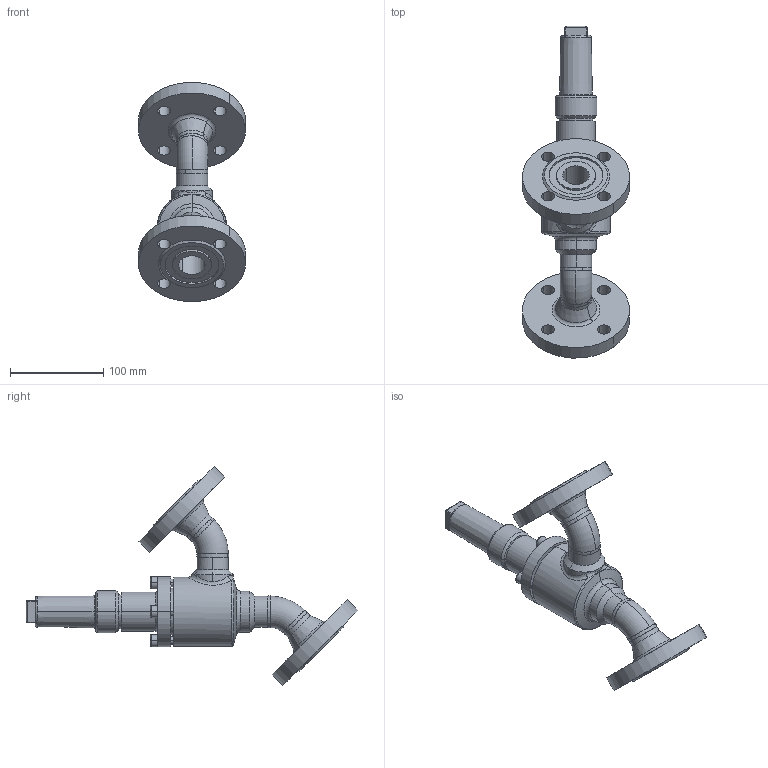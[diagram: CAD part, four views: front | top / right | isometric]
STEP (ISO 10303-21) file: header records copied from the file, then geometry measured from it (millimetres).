
FILE_DESCRIPTION (( 'STEP AP214' ), '1' );
FILE_NAME ('RVAK27320D12-DN025_DIN-FL-N_PS40.STEP', '2006-04-27T13:56:11', ( 'Herr Grams' ), ( 'AWP GmbH' ), 'SwSTEP 2.0', 'SolidWorks 2002296', '' );
FILE_SCHEMA (( 'AUTOMOTIVE_DESIGN' ));
Length unit declared in the file: millimetre
Products named in the file (14): RVAK27320D12-DN025_DIN-FL-N_PS40; Gehäuse-kpl16320-DN025_DIN_PS40_Standard; Gehäuse-kpl16300-DN025_R1_Standard; Gehäuse16400-DN025_Standard; Rohrbogen 45°_R1-Fase_Rohrbogen-DN025-45°; bead16300-Geh-025-1_Standard; bead16300-Geh-025-2_Standard; Flansch-DIN2635-Nut_PS40_DIN-Flansch-DN025_PS40-Nut; bead16320-DN025-2_Standard; bead16320-DN025-1_Standard; RVA29300E13_Deck-Schr-DN25-32_Standard; Deckel29300E13-DN25-32_Standard; Zylinderschraube-DIN912_M 8x 25; Kappe16402_DN010-32_Standard
Assembly tree (18 placements, depth 4):
  RVAK27320D12-DN025_DIN-FL-N_PS40
    RVA29300E13_Deck-Schr-DN25-32_Standard
      Zylinderschraube-DIN912_M 8x 25  x4
      Deckel29300E13-DN25-32_Standard
    Gehäuse-kpl16320-DN025_DIN_PS40_Standard
      bead16320-DN025-1_Standard
      Gehäuse-kpl16300-DN025_R1_Standard
        Rohrbogen 45°_R1-Fase_Rohrbogen-DN025-45°  x2
        bead16300-Geh-025-1_Standard
        Gehäuse16400-DN025_Standard
        bead16300-Geh-025-2_Standard
      Flansch-DIN2635-Nut_PS40_DIN-Flansch-DN025_PS40-Nut  x2
      bead16320-DN025-2_Standard
    Kappe16402_DN010-32_Standard
Bounding box: 114.56 x 356.45 x 235.16 mm (x, y, z)
Volume: 770869.5 mm3; surface area: 177099 mm2
Topology: 15 solids, 15 shells, 318 faces, 746 edges, 471 vertices
Faces by surface type: cylinder 113, plane 86, cone 65, torus 35, bspline 19
Entity records: 49325 total; most frequent: CARTESIAN_POINT 43480, DIRECTION 1081, ORIENTED_EDGE 1056, EDGE_CURVE 528, AXIS2_PLACEMENT_3D 460, VERTEX_POINT 333, EDGE_LOOP 261, CIRCLE 233
